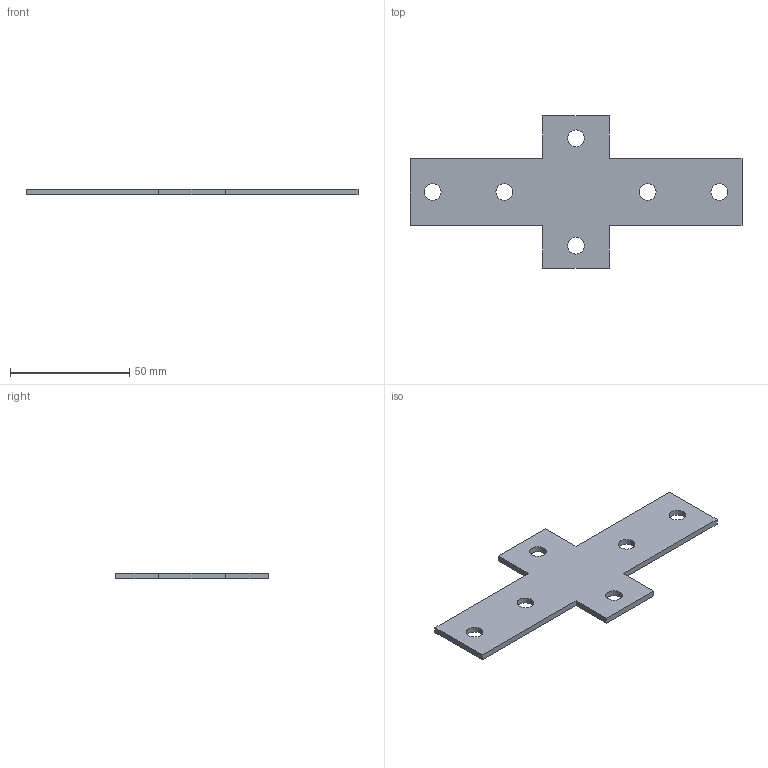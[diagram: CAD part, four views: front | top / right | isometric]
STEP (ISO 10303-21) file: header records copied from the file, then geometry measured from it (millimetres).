
FILE_DESCRIPTION (( 'STEP AP203' ), '1' );
FILE_NAME ('2093.step', '2019-02-19T08:44:38', ( '' ), ( '' ), 'SwSTEP 2.0', 'SolidWorks 2016', '' );
FILE_SCHEMA (( 'CONFIG_CONTROL_DESIGN' ));
Length unit declared in the file: millimetre
Products named in the file (1): 2093
Bounding box: 139 x 64 x 2.5 mm (x, y, z)
Volume: 11672.7 mm3; surface area: 10683.1 mm2
Topology: 1 solids, 1 shells, 26 faces, 72 edges, 48 vertices
Faces by surface type: plane 14, cylinder 12
Entity records: 941 total; most frequent: DIRECTION 150, CARTESIAN_POINT 147, ORIENTED_EDGE 144, EDGE_CURVE 72, AXIS2_PLACEMENT_3D 51, VERTEX_POINT 48, VECTOR 48, LINE 48
